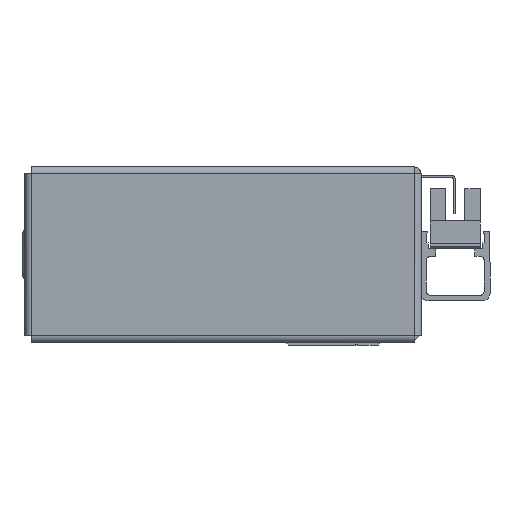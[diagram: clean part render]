
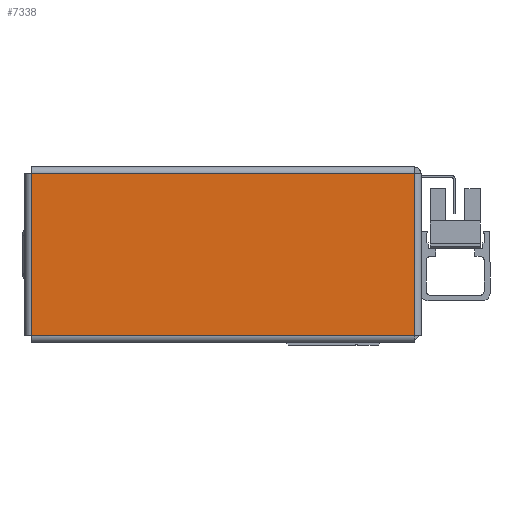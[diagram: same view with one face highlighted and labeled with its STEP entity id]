
A CAD part, left-side view. The second image highlights one B-rep face of the part: STEP entity #7338.
In plain terms, the highlighted planar face has unit normal (-1, 0, 0) as drawn and (0, 0, -1) by its records, which use the part's own axes.
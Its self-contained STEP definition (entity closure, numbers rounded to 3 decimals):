
#58 = CARTESIAN_POINT ( 'NONE',  ( 49.543, -21.013, -1. ) ) ;
#605 = EDGE_LOOP ( 'NONE', ( #7655, #7724, #8024, #8302 ) ) ;
#1153 = CARTESIAN_POINT ( 'NONE',  ( -49.513, -21.043, -1. ) ) ;
#2873 = CARTESIAN_POINT ( 'NONE',  ( 49.513, 21.013, -1. ) ) ;
#5428 = AXIS2_PLACEMENT_3D ( 'NONE', #9191, #27536, #11845 ) ;
#6482 = VECTOR ( 'NONE', #11051, 1000. ) ;
#6936 = LINE ( 'NONE', #58, #6482 ) ;
#7338 = ADVANCED_FACE ( 'NONE', ( #14438 ), #24926, .F. ) ;
#7655 = ORIENTED_EDGE ( 'NONE', *, *, #26272, .T. ) ;
#7724 = ORIENTED_EDGE ( 'NONE', *, *, #26512, .T. ) ;
#7769 = DIRECTION ( 'NONE',  ( 0., -1., 0. ) ) ;
#7902 = VECTOR ( 'NONE', #7769, 1000. ) ;
#8024 = ORIENTED_EDGE ( 'NONE', *, *, #26517, .T. ) ;
#8246 = VECTOR ( 'NONE', #33706, 1000. ) ;
#8279 = LINE ( 'NONE', #15772, #8246 ) ;
#8302 = ORIENTED_EDGE ( 'NONE', *, *, #26661, .T. ) ;
#8317 = LINE ( 'NONE', #10481, #7902 ) ;
#9191 = CARTESIAN_POINT ( 'NONE',  ( 0., 0., -1. ) ) ;
#10007 = VECTOR ( 'NONE', #32775, 1000. ) ;
#10439 = LINE ( 'NONE', #1153, #10007 ) ;
#10481 = CARTESIAN_POINT ( 'NONE',  ( 49.513, 21.043, -1. ) ) ;
#11051 = DIRECTION ( 'NONE',  ( -1., 0., 0. ) ) ;
#11845 = DIRECTION ( 'NONE',  ( 1., 0., 0. ) ) ;
#13770 = VERTEX_POINT ( 'NONE', #2873 ) ;
#13867 = VERTEX_POINT ( 'NONE', #32079 ) ;
#14438 = FACE_OUTER_BOUND ( 'NONE', #605, .T. ) ;
#14968 = VERTEX_POINT ( 'NONE', #26494 ) ;
#15094 = VERTEX_POINT ( 'NONE', #31939 ) ;
#15772 = CARTESIAN_POINT ( 'NONE',  ( -49.543, 21.013, -1. ) ) ;
#24926 = PLANE ( 'NONE',  #5428 ) ;
#26272 = EDGE_CURVE ( 'NONE', #14968, #15094, #10439, .T. ) ;
#26494 = CARTESIAN_POINT ( 'NONE',  ( -49.513, -21.013, -1. ) ) ;
#26512 = EDGE_CURVE ( 'NONE', #15094, #13770, #8279, .T. ) ;
#26517 = EDGE_CURVE ( 'NONE', #13770, #13867, #8317, .T. ) ;
#26661 = EDGE_CURVE ( 'NONE', #13867, #14968, #6936, .T. ) ;
#27536 = DIRECTION ( 'NONE',  ( 0., 0., 1. ) ) ;
#31939 = CARTESIAN_POINT ( 'NONE',  ( -49.513, 21.013, -1. ) ) ;
#32079 = CARTESIAN_POINT ( 'NONE',  ( 49.513, -21.013, -1. ) ) ;
#32775 = DIRECTION ( 'NONE',  ( 0., 1., 0. ) ) ;
#33706 = DIRECTION ( 'NONE',  ( 1., 0., 0. ) ) ;
